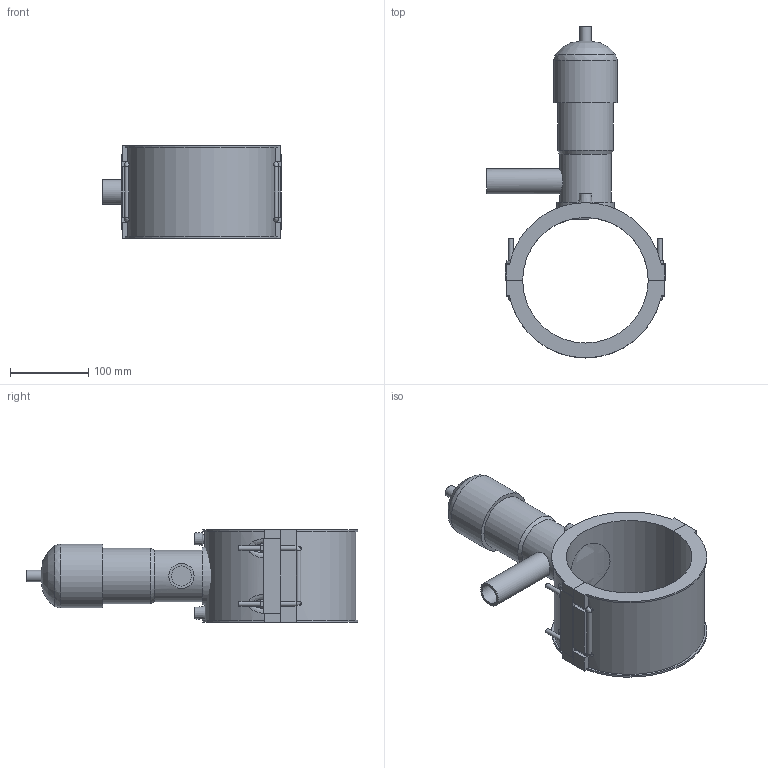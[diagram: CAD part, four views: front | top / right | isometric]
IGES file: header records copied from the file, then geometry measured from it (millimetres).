
Global section: file name: 495404160032.ipt; native system: Autodesk Inventor 2015; preprocessor: unknown; author: KIM; date: 20171106.094258; units: millimetre
Bounding box: 228 x 422.88 x 118 mm (x, y, z)
Volume: 2052339 mm3; surface area: 258089.7 mm2
Topology: 3 solids, 5 shells, 157 faces, 388 edges, 246 vertices
Faces by surface type: plane 93, cylinder 29, revolution 16, bspline 12, cone 7
Full cylindrical faces by diameter (mm): 4 x2, 6 x8, 14.64 x1, 32 x1, 65.88 x1, 70.76 x1, 73.2 x1, 81.333 x1
